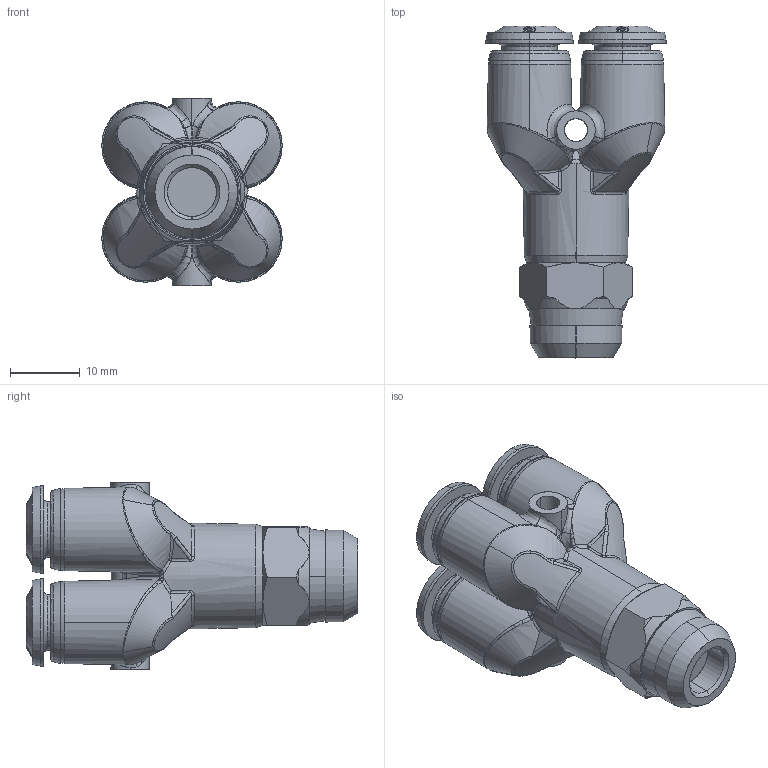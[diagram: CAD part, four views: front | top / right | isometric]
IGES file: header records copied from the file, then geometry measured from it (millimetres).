
Start section: SolidWorks IGES file using analytic representation for surfaces
Global section: file name: K:\Disegni Esecutivi\Serie 55000\ASSIEMI_55000\55340\ASSIEMI_.IGES_55340\5534000004A.IGS; native system: SolidWorks 2007; preprocessor: SolidWorks 2007; author: cad02; date: 071130.095402; units: millimetre
Bounding box: 25.8 x 47.5 x 26.8 mm (x, y, z)
Surface area: 6406.6 mm2 (no closed solid volume)
Topology: 0 solids, 0 shells, 852 faces, 8564 edges, 8550 vertices
Faces by surface type: bspline 554, revolution 298
